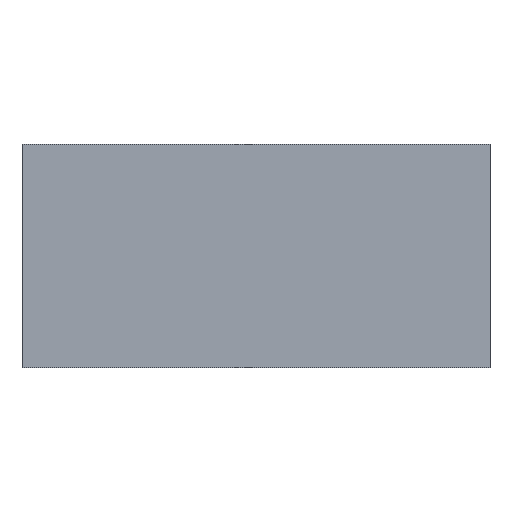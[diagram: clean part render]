
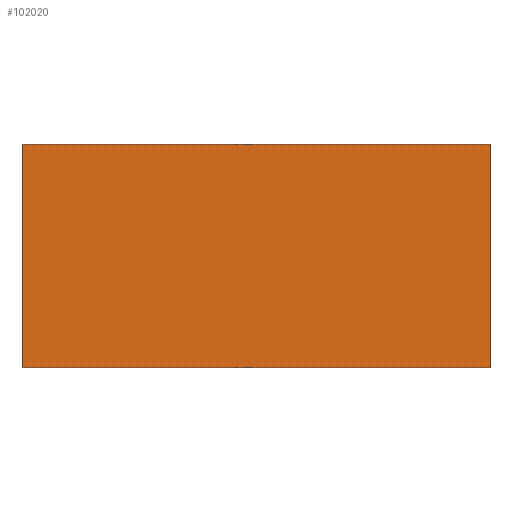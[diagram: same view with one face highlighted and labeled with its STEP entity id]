
A CAD part, front view. The second image highlights one B-rep face of the part: STEP entity #102020.
In plain terms, the highlighted planar face has unit normal (0, -1, 0).
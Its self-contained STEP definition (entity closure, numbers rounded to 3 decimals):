
#810=CARTESIAN_POINT('',(137.312,180.943,7.747));
#820=DIRECTION('',(-1.,0.,0.));
#830=VECTOR('',#820,1.);
#840=LINE('',#810,#830);
#850=CARTESIAN_POINT('',(-81.103,180.943,7.747));
#860=VERTEX_POINT('',#850);
#870=CARTESIAN_POINT('',(-116.028,180.943,7.747));
#880=VERTEX_POINT('',#870);
#890=EDGE_CURVE('',#860,#880,#840,.T.);
#3880=CARTESIAN_POINT('',(-116.028,180.943,28.397));
#3890=DIRECTION('',(0.,0.,1.));
#3900=VECTOR('',#3890,1.);
#3910=LINE('',#3880,#3900);
#3920=CARTESIAN_POINT('',(-116.028,180.943,24.46));
#3930=VERTEX_POINT('',#3920);
#3940=EDGE_CURVE('',#880,#3930,#3910,.T.);
#5220=CARTESIAN_POINT('',(-334.444,180.943,24.46));
#5230=DIRECTION('',(1.,0.,0.));
#5240=VECTOR('',#5230,1.);
#5250=LINE('',#5220,#5240);
#5260=CARTESIAN_POINT('',(-81.103,180.943,24.46));
#5270=VERTEX_POINT('',#5260);
#5280=EDGE_CURVE('',#3930,#5270,#5250,.T.);
#84290=CARTESIAN_POINT('',(-81.103,180.943,28.397));
#84300=DIRECTION('',(0.,0.,-1.));
#84310=VECTOR('',#84300,1.);
#84320=LINE('',#84290,#84310);
#84330=EDGE_CURVE('',#5270,#860,#84320,.T.);
#101910=CARTESIAN_POINT('',(-116.028,180.943,28.397));
#101920=DIRECTION('',(-0.,-1.,-0.));
#101930=DIRECTION('',(-1.,0.,0.));
#101940=AXIS2_PLACEMENT_3D('',#101910,#101920,#101930);
#101950=PLANE('',#101940);
#101960=ORIENTED_EDGE('',*,*,#84330,.F.);
#101970=ORIENTED_EDGE('',*,*,#890,.F.);
#101980=ORIENTED_EDGE('',*,*,#3940,.F.);
#101990=ORIENTED_EDGE('',*,*,#5280,.F.);
#102000=EDGE_LOOP('',(#101990,#101980,#101970,#101960));
#102010=FACE_OUTER_BOUND('',#102000,.T.);
#102020=ADVANCED_FACE('',(#102010),#101950,.T.);
